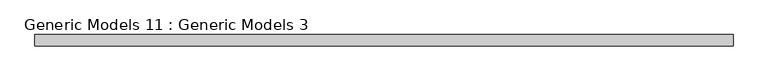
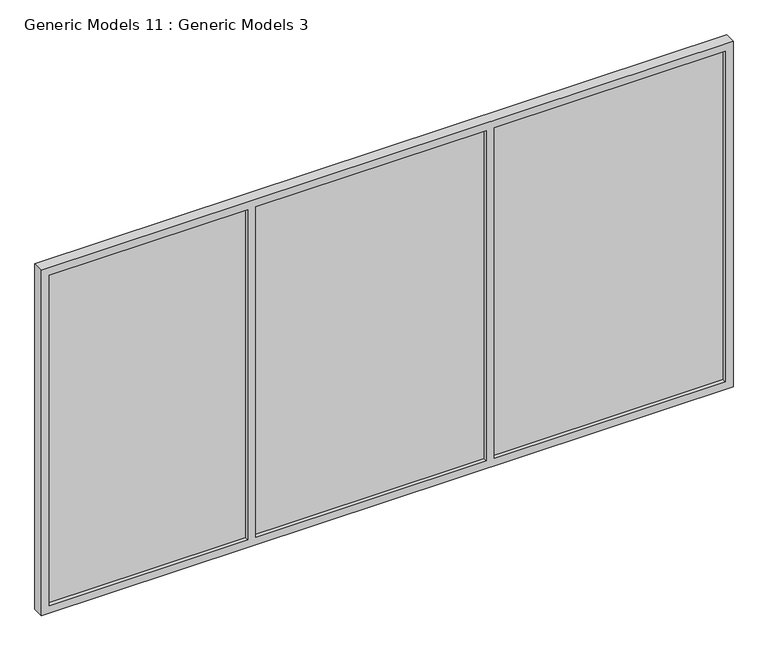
"""IFC4 building model written with IfcOpenShell, lengths in millimetres: proxy geometry, Generic Models 11 : Generic Models 3."""

from ifc_helpers import new_model, si_unit, frame, origin, place, context, project, spatial, polyline, outline, extrude, source, transform, mapped, element, save


def generic_models_11_generic_models_3_47c23c9b(model_context):
    return source(origin(), model_context, "Body", "SweptSolid", [
        extrude(outline(polyline([(-6721.3029896, -3952.4385624), (-7968.5171482, -3952.4385624), (-7968.5171482, -3921.6857931), (-6721.3029896, -3921.6857931), (-6721.3029896, -3952.4385624)])), frame((0.0, 0.0, 6453.5380954), z_axis=(0.0, 0.0, 1.0), x_axis=(1.0, 0.0, 0.0)), (0.0, 0.0, 1.0), 2196.4619046),
        extrude(outline(polyline([(-5221.3029896, -3952.4385624), (-6671.3029896, -3952.4385624), (-6671.3029896, -3921.6857931), (-5221.3029896, -3921.6857931), (-5221.3029896, -3952.4385624)])), frame((0.0, 0.0, 6453.5380954), z_axis=(0.0, 0.0, 1.0), x_axis=(1.0, 0.0, 0.0)), (0.0, 0.0, 1.0), 2196.4619046),
        extrude(outline(polyline([(-3718.5171482, -3952.4385624), (-5171.3029896, -3952.4385624), (-5171.3029896, -3921.6857931), (-3718.5171482, -3921.6857931), (-3718.5171482, -3952.4385624)])), frame((0.0, 0.0, 6453.5380954), z_axis=(0.0, 0.0, 1.0), x_axis=(1.0, 0.0, 0.0)), (0.0, 0.0, 1.0), 2196.4619046),
        extrude(outline(polyline([(6403.5380954, -3668.5171482), (8700.0, -3668.5171482), (8700.0, -8018.5171482), (6403.5380954, -8018.5171482), (6403.5380954, -3668.5171482)]), holes=[polyline([(6453.5380954, -3718.5171482), (6453.5380954, -5171.3029896), (8650.0, -5171.3029896), (8650.0, -3718.5171482), (6453.5380954, -3718.5171482)]), polyline([(8650.0, -6721.3029896), (6453.5380954, -6721.3029896), (6453.5380954, -7968.5171482), (8650.0, -7968.5171482), (8650.0, -6721.3029896)]), polyline([(8650.0, -5221.3029896), (6453.5380954, -5221.3029896), (6453.5380954, -6671.3029896), (8650.0, -6671.3029896), (8650.0, -5221.3029896)])]), frame((0.0, -3977.8385624, 0.0), z_axis=(0.0, 1.0, 0.0), x_axis=(0.0, 0.0, 1.0)), (0.0, 0.0, 1.0), 69.85),
    ])


if __name__ == "__main__":
    model = new_model("IFC4")
    model_context = context("Model", 3, world=origin())
    ifc_project = project(units=[si_unit("LENGTHUNIT", "METRE", prefix="MILLI")], contexts=[model_context])
    site = spatial("IfcSite", under=ifc_project)
    building = spatial("IfcBuilding", under=site)
    placement = place(None, origin())
    generic_models_11_generic_models_3_shape = generic_models_11_generic_models_3_47c23c9b(model_context)
    element("IfcBuildingElementProxy", 1, Name="Generic Models 11 : Generic Models 3", ObjectType="Generic Models 11 : Generic Models 3", at=placement, inside=building, context=model_context, shape_type="MappedRepresentation", body=[
        mapped(generic_models_11_generic_models_3_shape, transform((0.0, 0.0, 0.0), x_axis=(1.0, 0.0, 0.0), y_axis=(0.0, 1.0, 0.0), z_axis=(0.0, 0.0, 1.0))),
    ])
    save(model, "model.ifc")
